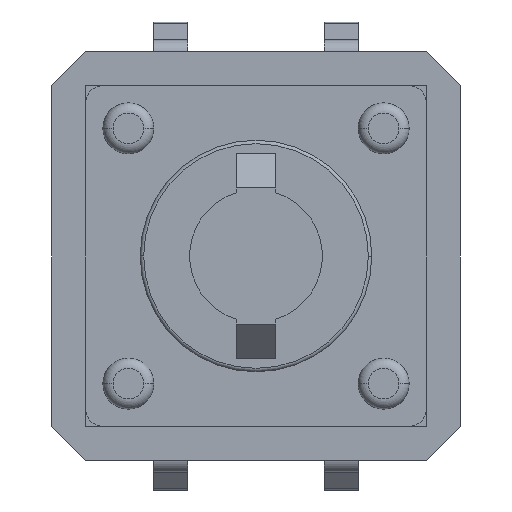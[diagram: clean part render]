
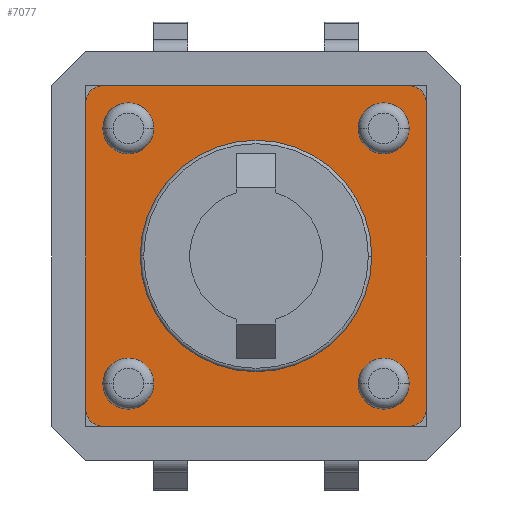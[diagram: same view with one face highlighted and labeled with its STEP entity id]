
A CAD part, front view. The second image highlights one B-rep face of the part: STEP entity #7077.
In plain terms, the highlighted planar face has unit normal (0, -1, 0).
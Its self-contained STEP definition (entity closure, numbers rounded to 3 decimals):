
#6708=CARTESIAN_POINT('',(-3.75,0.,-3.75));
#6709=DIRECTION('',(0.,-1.,0.));
#6710=DIRECTION('',(1.,0.,0.));
#6711=AXIS2_PLACEMENT_3D('',#6708,#6709,#6710);
#6713=CARTESIAN_POINT('',(-3.75,0.,-3.75));
#6714=DIRECTION('',(0.,-1.,0.));
#6715=DIRECTION('',(-1.,0.,0.));
#6716=AXIS2_PLACEMENT_3D('',#6713,#6714,#6715);
#6718=CARTESIAN_POINT('',(3.75,0.,-3.75));
#6719=DIRECTION('',(0.,-1.,0.));
#6720=DIRECTION('',(1.,0.,0.));
#6721=AXIS2_PLACEMENT_3D('',#6718,#6719,#6720);
#6723=CARTESIAN_POINT('',(3.75,0.,-3.75));
#6724=DIRECTION('',(0.,-1.,0.));
#6725=DIRECTION('',(-1.,0.,0.));
#6726=AXIS2_PLACEMENT_3D('',#6723,#6724,#6725);
#6728=CARTESIAN_POINT('',(3.75,0.,3.75));
#6729=DIRECTION('',(0.,-1.,0.));
#6730=DIRECTION('',(1.,0.,0.));
#6731=AXIS2_PLACEMENT_3D('',#6728,#6729,#6730);
#6733=CARTESIAN_POINT('',(3.75,0.,3.75));
#6734=DIRECTION('',(0.,-1.,0.));
#6735=DIRECTION('',(-1.,0.,0.));
#6736=AXIS2_PLACEMENT_3D('',#6733,#6734,#6735);
#6738=CARTESIAN_POINT('',(-3.75,0.,3.75));
#6739=DIRECTION('',(0.,-1.,0.));
#6740=DIRECTION('',(1.,0.,0.));
#6741=AXIS2_PLACEMENT_3D('',#6738,#6739,#6740);
#6743=CARTESIAN_POINT('',(-3.75,0.,3.75));
#6744=DIRECTION('',(0.,-1.,0.));
#6745=DIRECTION('',(-1.,0.,0.));
#6746=AXIS2_PLACEMENT_3D('',#6743,#6744,#6745);
#6748=CARTESIAN_POINT('',(0.,0.,0.));
#6749=DIRECTION('',(0.,-1.,0.));
#6750=DIRECTION('',(1.,0.,0.));
#6751=AXIS2_PLACEMENT_3D('',#6748,#6749,#6750);
#6753=CARTESIAN_POINT('',(0.,0.,0.));
#6754=DIRECTION('',(0.,-1.,0.));
#6755=DIRECTION('',(-1.,0.,0.));
#6756=AXIS2_PLACEMENT_3D('',#6753,#6754,#6755);
#6758=CARTESIAN_POINT('',(-4.5,0.,4.5));
#6759=DIRECTION('',(0.,-1.,0.));
#6760=DIRECTION('',(0.,0.,1.));
#6761=AXIS2_PLACEMENT_3D('',#6758,#6759,#6760);
#6763=DIRECTION('',(1.,0.,0.));
#6764=VECTOR('',#6763,9.);
#6765=CARTESIAN_POINT('',(-4.5,0.,5.));
#6766=LINE('',#6765,#6764);
#6767=CARTESIAN_POINT('',(4.5,0.,4.5));
#6768=DIRECTION('',(0.,-1.,0.));
#6769=DIRECTION('',(1.,0.,0.));
#6770=AXIS2_PLACEMENT_3D('',#6767,#6768,#6769);
#6772=DIRECTION('',(0.,0.,-1.));
#6773=VECTOR('',#6772,9.);
#6774=CARTESIAN_POINT('',(5.,0.,4.5));
#6775=LINE('',#6774,#6773);
#6776=CARTESIAN_POINT('',(4.5,0.,-4.5));
#6777=DIRECTION('',(0.,-1.,0.));
#6778=DIRECTION('',(0.,0.,-1.));
#6779=AXIS2_PLACEMENT_3D('',#6776,#6777,#6778);
#6781=DIRECTION('',(-1.,0.,0.));
#6782=VECTOR('',#6781,9.);
#6783=CARTESIAN_POINT('',(4.5,0.,-5.));
#6784=LINE('',#6783,#6782);
#6785=CARTESIAN_POINT('',(-4.5,0.,-4.5));
#6786=DIRECTION('',(0.,-1.,0.));
#6787=DIRECTION('',(-1.,0.,0.));
#6788=AXIS2_PLACEMENT_3D('',#6785,#6786,#6787);
#6790=DIRECTION('',(0.,0.,1.));
#6791=VECTOR('',#6790,9.);
#6792=CARTESIAN_POINT('',(-5.,0.,-4.5));
#6793=LINE('',#6792,#6791);
#6952=CARTESIAN_POINT('',(-3.5,0.,-3.75));
#6953=CARTESIAN_POINT('',(-4.,0.,-3.75));
#6954=VERTEX_POINT('',#6952);
#6955=VERTEX_POINT('',#6953);
#6956=CARTESIAN_POINT('',(4.,0.,-3.75));
#6957=CARTESIAN_POINT('',(3.5,0.,-3.75));
#6958=VERTEX_POINT('',#6956);
#6959=VERTEX_POINT('',#6957);
#6960=CARTESIAN_POINT('',(4.,0.,3.75));
#6961=CARTESIAN_POINT('',(3.5,0.,3.75));
#6962=VERTEX_POINT('',#6960);
#6963=VERTEX_POINT('',#6961);
#6964=CARTESIAN_POINT('',(-3.5,0.,3.75));
#6965=CARTESIAN_POINT('',(-4.,0.,3.75));
#6966=VERTEX_POINT('',#6964);
#6967=VERTEX_POINT('',#6965);
#6984=CARTESIAN_POINT('',(1.75,0.,0.));
#6985=CARTESIAN_POINT('',(-1.75,0.,0.));
#6986=VERTEX_POINT('',#6984);
#6987=VERTEX_POINT('',#6985);
#6992=CARTESIAN_POINT('',(-4.5,0.,5.));
#6993=CARTESIAN_POINT('',(-5.,0.,4.5));
#6994=VERTEX_POINT('',#6992);
#6995=VERTEX_POINT('',#6993);
#7000=CARTESIAN_POINT('',(5.,0.,4.5));
#7001=CARTESIAN_POINT('',(4.5,0.,5.));
#7002=VERTEX_POINT('',#7000);
#7003=VERTEX_POINT('',#7001);
#7008=CARTESIAN_POINT('',(4.5,0.,-5.));
#7009=CARTESIAN_POINT('',(5.,0.,-4.5));
#7010=VERTEX_POINT('',#7008);
#7011=VERTEX_POINT('',#7009);
#7016=CARTESIAN_POINT('',(-5.,0.,-4.5));
#7017=CARTESIAN_POINT('',(-4.5,0.,-5.));
#7018=VERTEX_POINT('',#7016);
#7019=VERTEX_POINT('',#7017);
#7024=CARTESIAN_POINT('',(0.,0.,0.));
#7025=DIRECTION('',(0.,1.,0.));
#7026=DIRECTION('',(1.,0.,0.));
#7027=AXIS2_PLACEMENT_3D('',#7024,#7025,#7026);
#7028=PLANE('',#7027);
#7030=ORIENTED_EDGE('',*,*,#7029,.F.);
#7032=ORIENTED_EDGE('',*,*,#7031,.T.);
#7034=ORIENTED_EDGE('',*,*,#7033,.F.);
#7036=ORIENTED_EDGE('',*,*,#7035,.T.);
#7038=ORIENTED_EDGE('',*,*,#7037,.F.);
#7040=ORIENTED_EDGE('',*,*,#7039,.T.);
#7042=ORIENTED_EDGE('',*,*,#7041,.F.);
#7044=ORIENTED_EDGE('',*,*,#7043,.T.);
#7045=EDGE_LOOP('',(#7030,#7032,#7034,#7036,#7038,#7040,#7042,#7044));
#7046=FACE_OUTER_BOUND('',#7045,.F.);
#7048=ORIENTED_EDGE('',*,*,#7047,.T.);
#7050=ORIENTED_EDGE('',*,*,#7049,.T.);
#7051=EDGE_LOOP('',(#7048,#7050));
#7052=FACE_BOUND('',#7051,.F.);
#7054=ORIENTED_EDGE('',*,*,#7053,.T.);
#7056=ORIENTED_EDGE('',*,*,#7055,.T.);
#7057=EDGE_LOOP('',(#7054,#7056));
#7058=FACE_BOUND('',#7057,.F.);
#7060=ORIENTED_EDGE('',*,*,#7059,.T.);
#7062=ORIENTED_EDGE('',*,*,#7061,.T.);
#7063=EDGE_LOOP('',(#7060,#7062));
#7064=FACE_BOUND('',#7063,.F.);
#7066=ORIENTED_EDGE('',*,*,#7065,.T.);
#7068=ORIENTED_EDGE('',*,*,#7067,.T.);
#7069=EDGE_LOOP('',(#7066,#7068));
#7070=FACE_BOUND('',#7069,.F.);
#7072=ORIENTED_EDGE('',*,*,#7071,.T.);
#7074=ORIENTED_EDGE('',*,*,#7073,.T.);
#7075=EDGE_LOOP('',(#7072,#7074));
#7076=FACE_BOUND('',#7075,.F.);
#6712=CIRCLE('',#6711,0.25);
#6717=CIRCLE('',#6716,0.25);
#6722=CIRCLE('',#6721,0.25);
#6727=CIRCLE('',#6726,0.25);
#6732=CIRCLE('',#6731,0.25);
#6737=CIRCLE('',#6736,0.25);
#6742=CIRCLE('',#6741,0.25);
#6747=CIRCLE('',#6746,0.25);
#6752=CIRCLE('',#6751,1.75);
#6757=CIRCLE('',#6756,1.75);
#6762=CIRCLE('',#6761,0.5);
#6771=CIRCLE('',#6770,0.5);
#6780=CIRCLE('',#6779,0.5);
#6789=CIRCLE('',#6788,0.5);
#7029=EDGE_CURVE('',#6994,#6995,#6762,.T.);
#7031=EDGE_CURVE('',#6994,#7003,#6766,.T.);
#7033=EDGE_CURVE('',#7002,#7003,#6771,.T.);
#7035=EDGE_CURVE('',#7002,#7011,#6775,.T.);
#7037=EDGE_CURVE('',#7010,#7011,#6780,.T.);
#7039=EDGE_CURVE('',#7010,#7019,#6784,.T.);
#7041=EDGE_CURVE('',#7018,#7019,#6789,.T.);
#7043=EDGE_CURVE('',#7018,#6995,#6793,.T.);
#7047=EDGE_CURVE('',#6958,#6959,#6722,.T.);
#7049=EDGE_CURVE('',#6959,#6958,#6727,.T.);
#7053=EDGE_CURVE('',#6962,#6963,#6732,.T.);
#7055=EDGE_CURVE('',#6963,#6962,#6737,.T.);
#7059=EDGE_CURVE('',#6966,#6967,#6742,.T.);
#7061=EDGE_CURVE('',#6967,#6966,#6747,.T.);
#7065=EDGE_CURVE('',#6986,#6987,#6752,.T.);
#7067=EDGE_CURVE('',#6987,#6986,#6757,.T.);
#7071=EDGE_CURVE('',#6954,#6955,#6712,.T.);
#7073=EDGE_CURVE('',#6955,#6954,#6717,.T.);
#7077=ADVANCED_FACE('',(#7046,#7052,#7058,#7064,#7070,#7076),#7028,.F.);
